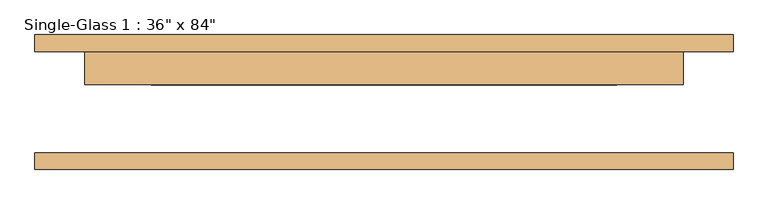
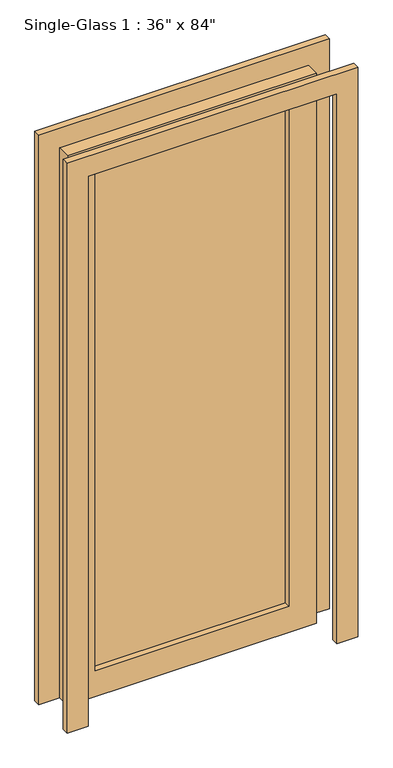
"""IFC4 building model written with IfcOpenShell, lengths in millimetres: door geometry."""

from ifc_helpers import new_model, si_unit, frame, origin, place, context, project, spatial, polyline, outline, extrude, source, transform, mapped, element, save


def door_b81abb0e(model_context):
    return source(origin(), model_context, "Body", "SweptSolid", [
        extrude(outline(polyline([(2133.6, 457.2), (0.0, 457.2), (0.0, 533.4), (2209.8, 533.4), (2209.8, -533.4), (0.0, -533.4), (0.0, -457.2), (2133.6, -457.2), (2133.6, 457.2)])), frame((0.0, -103.1875, 0.0), z_axis=(0.0, 1.0, 0.0), x_axis=(0.0, 0.0, 1.0)), (0.0, 0.0, 1.0), 25.4),
        extrude(outline(polyline([(2133.6, 457.2), (0.0, 457.2), (0.0, 533.4), (2209.8, 533.4), (2209.8, -533.4), (0.0, -533.4), (0.0, -457.2), (2133.6, -457.2), (2133.6, 457.2)])), frame((0.0, 77.7875, 0.0), z_axis=(0.0, 1.0, 0.0), x_axis=(0.0, 0.0, 1.0)), (0.0, 0.0, 1.0), 25.4),
        extrude(outline(polyline([(355.6, 49.2125), (-355.6, 49.2125), (-355.6, 55.5625), (355.6, 55.5625), (355.6, 49.2125)])), frame((0.0, 0.0, 101.6), z_axis=(0.0, 0.0, 1.0), x_axis=(1.0, 0.0, 0.0)), (0.0, 0.0, 1.0), 1930.4),
        extrude(outline(polyline([(2133.6, 457.2), (2133.6, -457.2), (0.0, -457.2), (0.0, 457.2), (2133.6, 457.2)]), holes=[polyline([(2032.0, -355.6), (2032.0, 355.6), (101.6, 355.6), (101.6, -355.6), (2032.0, -355.6)])]), frame((0.0, 26.9875, 0.0), z_axis=(0.0, 1.0, 0.0), x_axis=(0.0, 0.0, 1.0)), (0.0, 0.0, 1.0), 50.8),
    ])


if __name__ == "__main__":
    model = new_model("IFC4")
    model_context = context("Model", 3, world=origin())
    ifc_project = project(units=[si_unit("LENGTHUNIT", "METRE", prefix="MILLI")], contexts=[model_context])
    site = spatial("IfcSite", under=ifc_project)
    building = spatial("IfcBuilding", under=site)
    placement = place(None, origin())
    door_shape = door_b81abb0e(model_context)
    element("IfcDoor", 1, ObjectType="Single-Glass 1 : 36\" x 84\"", at=placement, inside=building, context=model_context, shape_type="MappedRepresentation", body=[
        mapped(door_shape, transform((0.0, 0.0, 0.0), x_axis=(1.0, 0.0, 0.0), y_axis=(0.0, 1.0, 0.0), z_axis=(0.0, 0.0, 1.0))),
    ])
    save(model, "model.ifc")
